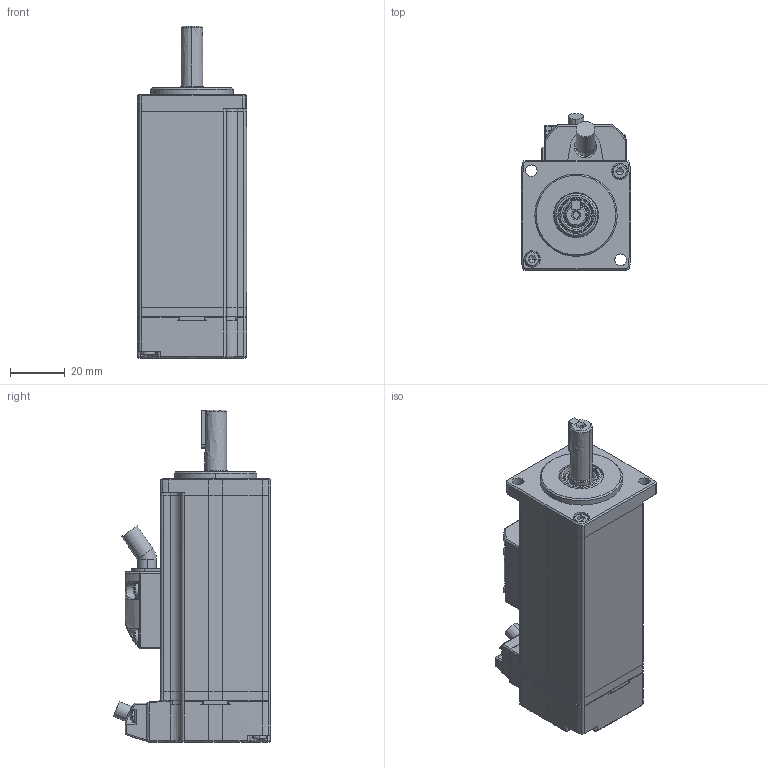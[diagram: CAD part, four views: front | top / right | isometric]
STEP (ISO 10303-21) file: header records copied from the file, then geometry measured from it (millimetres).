
FILE_DESCRIPTION(/* description */ (''),/* implementation_level */ '2;1');
FILE_NAME(/* name */ 'MXL-A5~1',/* time_stamp */ '2020-07-21T15:47:04+01:00',/* author */ (''),/* organization */ (''),/* preprocessor_version */ 'ST-DEVELOPER v15',/* originating_system */ '',/* authorisation */ '');
FILE_SCHEMA (('AUTOMOTIVE_DESIGN'));
Length unit declared in the file: millimetre
Products named in the file (1): Document
Bounding box: 40 x 57.22 x 121 mm (x, y, z)
Surface area: 25556.3 mm2 (no closed solid volume)
Topology: 0 solids, 28 shells, 562 faces, 1689 edges, 1113 vertices
Faces by surface type: bspline 355, plane 207
Entity records: 26666 total; most frequent: CARTESIAN_POINT 17506, ORIENTED_EDGE 2797, EDGE_CURVE 1671, VERTEX_POINT 1113, B_SPLINE_CURVE_WITH_KNOTS 1050, EDGE_LOOP 619, ADVANCED_FACE 562, FACE_OUTER_BOUND 562
